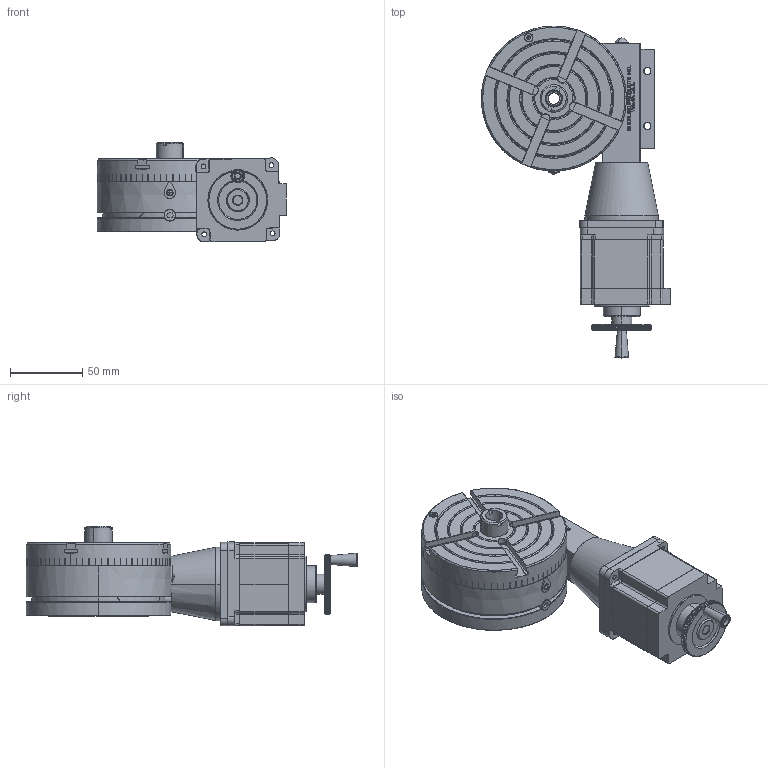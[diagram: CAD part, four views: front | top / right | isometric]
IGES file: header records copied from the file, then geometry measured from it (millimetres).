
Start section: Comment
Global section: file name: 3710-rotorytable w chuck adapter.igs; native system:  By Spatial Corp.; preprocessor: XPlus PS/IGES 3.0; author: Author; organization: Title; date: 20180312.104433; units: inch
Bounding box: 130.97 x 229.75 x 69.08 mm (x, y, z)
Surface area: 169454 mm2 (no closed solid volume)
Topology: 0 solids, 0 shells, 3028 faces, 16466 edges, 16434 vertices
Faces by surface type: extrusion 1774, revolution 1137, bspline 117
